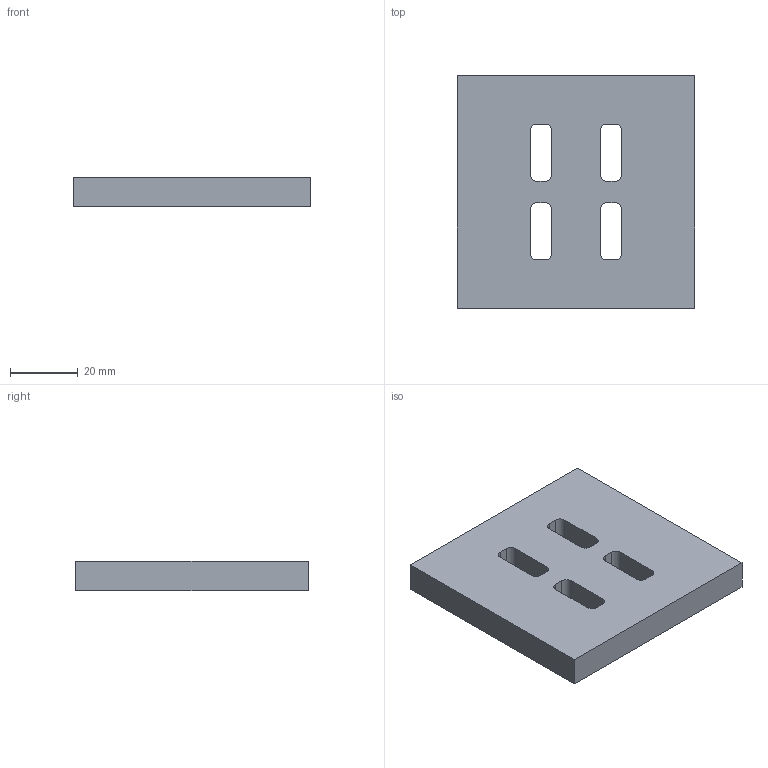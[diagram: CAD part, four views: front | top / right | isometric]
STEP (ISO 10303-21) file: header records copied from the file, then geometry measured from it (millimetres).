
FILE_DESCRIPTION (( 'STEP AP214' ), '1' );
FILE_NAME ('Valve_back.STEP', '2015-04-16T23:57:05', ( '' ), ( '' ), 'SwSTEP 2.0', 'SolidWorks 2012', '' );
FILE_SCHEMA (( 'AUTOMOTIVE_DESIGN' ));
Length unit declared in the file: inch
Products named in the file (1): Valve_back
Bounding box: 69.85 x 68.33 x 8.76 mm (x, y, z)
Volume: 35384.1 mm3; surface area: 12792.7 mm2
Topology: 1 solids, 1 shells, 44 faces, 132 edges, 88 vertices
Faces by surface type: plane 24, cylinder 20
Entity records: 1552 total; most frequent: CARTESIAN_POINT 265, ORIENTED_EDGE 264, DIRECTION 262, EDGE_CURVE 132, VECTOR 92, LINE 92, VERTEX_POINT 88, AXIS2_PLACEMENT_3D 85
